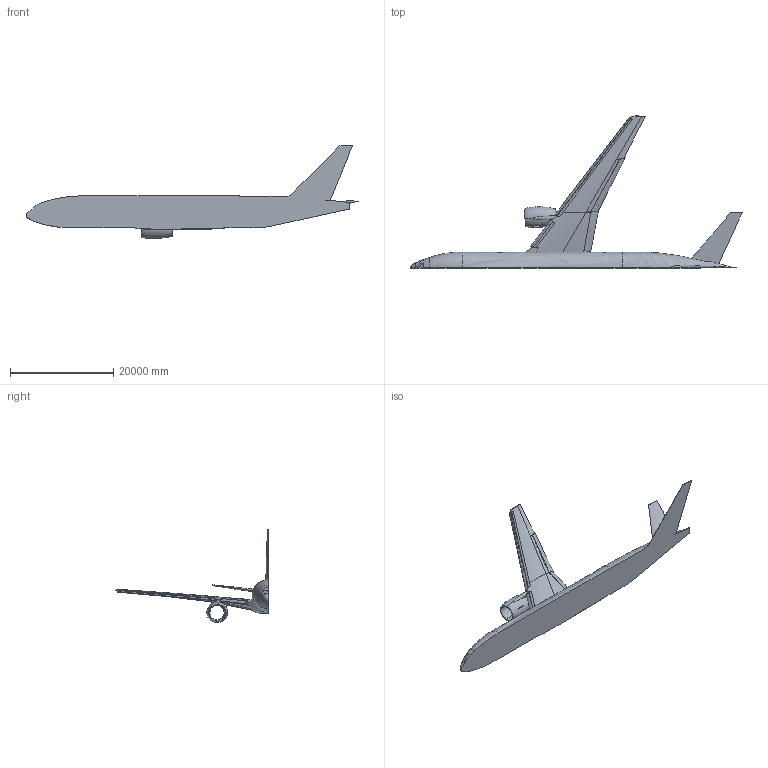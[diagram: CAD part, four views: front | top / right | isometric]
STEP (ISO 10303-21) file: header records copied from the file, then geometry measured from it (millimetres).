
FILE_DESCRIPTION(('CATIA V5 STEP Exchange'),'2;1');
FILE_NAME('\\nos\Data\CRM_HL\Test_Execution_Teams\ReferenceGeometry\ReferenceAssemblies\CRM-HL_ReferenceSolid_TKO25_20230224.stp','2023-02-24T20:14:03+00:00',('none'),('none'),'CATIA Version 5-6 Release 2018 SP6 HF6','CATIA V5 STEP AP203','none');
FILE_SCHEMA(('CONFIG_CONTROL_DESIGN'));
Products named in the file (1): Part8
Bounding box: 64348.47 x 29461.71 x 18026.15 mm (x, y, z)
Volume: 910906307275.7 mm3; surface area: 1633053711.5 mm2
Topology: 1 solids, 1 shells, 91 faces, 331 edges, 238 vertices
Faces by surface type: bspline 71, plane 19, extrusion 1
Entity records: 453915 total; most frequent: CARTESIAN_POINT 451869, ORIENTED_EDGE 648, EDGE_CURVE 324, B_SPLINE_CURVE_WITH_KNOTS 311, VERTEX_POINT 238, EDGE_LOOP 98, ADVANCED_FACE 91, FACE_OUTER_BOUND 91
